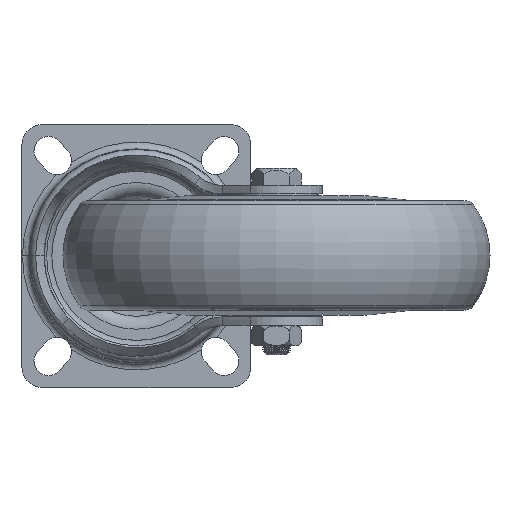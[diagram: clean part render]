
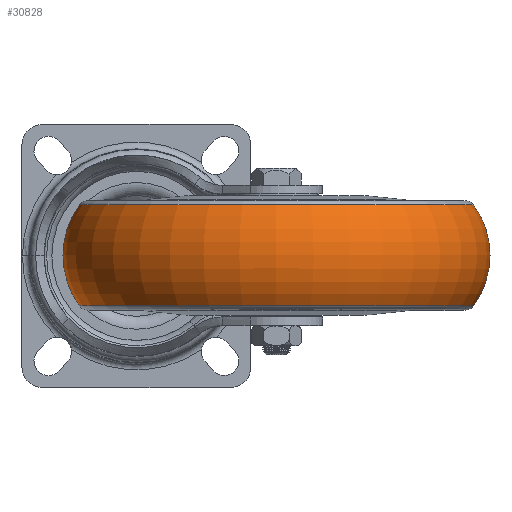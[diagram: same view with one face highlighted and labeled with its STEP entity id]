
A CAD part, top view. The second image highlights one B-rep face of the part: STEP entity #30828.
In plain terms, the highlighted toroidal (fillet/blend) face has major radius 37.5 mm and minor radius 25 mm.
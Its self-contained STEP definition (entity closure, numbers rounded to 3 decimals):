
#30480=CARTESIAN_POINT('',(-14.773,0.,0.));
#30481=DIRECTION('',(1.,0.,0.));
#30482=DIRECTION('',(0.,1.,0.));
#30483=AXIS2_PLACEMENT_3D('',#30480,#30481,#30482);
#30490=CARTESIAN_POINT('',(0.,37.5,0.));
#30491=DIRECTION('',(0.,0.,1.));
#30492=DIRECTION('',(0.591,0.807,0.));
#30493=AXIS2_PLACEMENT_3D('',#30490,#30491,#30492);
#30495=CARTESIAN_POINT('',(14.773,0.,0.));
#30496=DIRECTION('',(1.,0.,0.));
#30497=DIRECTION('',(0.,1.,0.));
#30498=AXIS2_PLACEMENT_3D('',#30495,#30496,#30497);
#30500=CARTESIAN_POINT('',(0.,-37.5,0.));
#30501=DIRECTION('',(0.,0.,-1.));
#30502=DIRECTION('',(0.591,-0.807,0.));
#30503=AXIS2_PLACEMENT_3D('',#30500,#30501,#30502);
#30733=CARTESIAN_POINT('',(14.773,57.668,0.));
#30735=VERTEX_POINT('',#30733);
#30736=CARTESIAN_POINT('',(-14.773,57.668,0.));
#30737=VERTEX_POINT('',#30736);
#30761=CARTESIAN_POINT('',(14.773,-57.668,
0.));
#30763=VERTEX_POINT('',#30761);
#30764=CARTESIAN_POINT('',(-14.773,-57.668,
0.));
#30765=VERTEX_POINT('',#30764);
#30814=CARTESIAN_POINT('',(0.,0.,0.));
#30815=DIRECTION('',(-1.,0.,0.));
#30816=DIRECTION('',(0.,1.,0.));
#30817=AXIS2_PLACEMENT_3D('',#30814,#30815,#30816);
#30818=TOROIDAL_SURFACE('',#30817,37.5,25.);
#30820=ORIENTED_EDGE('',*,*,#30819,.F.);
#30822=ORIENTED_EDGE('',*,*,#30821,.T.);
#30824=ORIENTED_EDGE('',*,*,#30823,.T.);
#30825=ORIENTED_EDGE('',*,*,#30807,.F.);
#30826=EDGE_LOOP('',(#30820,#30822,#30824,#30825));
#30827=FACE_OUTER_BOUND('',#30826,.F.);
#30484=CIRCLE('',#30483,57.668);
#30494=CIRCLE('',#30493,25.);
#30499=CIRCLE('',#30498,57.668);
#30504=CIRCLE('',#30503,25.);
#30807=EDGE_CURVE('',#30737,#30765,#30484,.T.);
#30819=EDGE_CURVE('',#30735,#30737,#30494,.T.);
#30821=EDGE_CURVE('',#30735,#30763,#30499,.T.);
#30823=EDGE_CURVE('',#30763,#30765,#30504,.T.);
#30828=ADVANCED_FACE('',(#30827),#30818,.T.);
